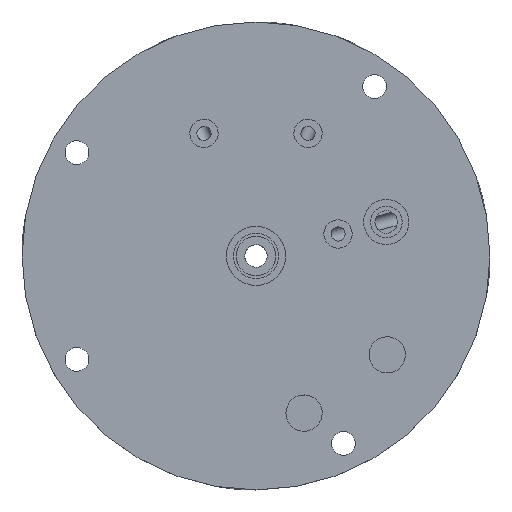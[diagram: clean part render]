
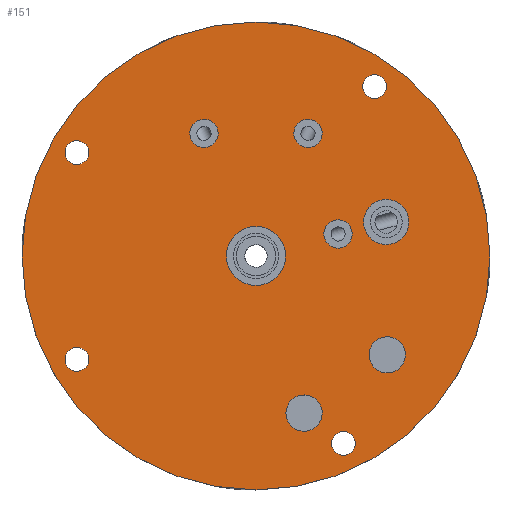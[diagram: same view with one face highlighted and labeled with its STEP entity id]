
A CAD part, top view. The second image highlights one B-rep face of the part: STEP entity #151.
In plain terms, the highlighted planar face has unit normal (0, 0, 1).
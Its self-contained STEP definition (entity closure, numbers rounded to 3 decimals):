
#151=ADVANCED_FACE('',(#434,#435,#436,#437,#438,#439,#440,#441,#442,#443,#444,#445),#446,.T.);
#434=FACE_BOUND('',#839,.T.);
#435=FACE_BOUND('',#840,.T.);
#436=FACE_BOUND('',#841,.T.);
#437=FACE_BOUND('',#842,.T.);
#438=FACE_BOUND('',#843,.T.);
#439=FACE_BOUND('',#844,.T.);
#440=FACE_BOUND('',#845,.T.);
#441=FACE_BOUND('',#846,.T.);
#442=FACE_BOUND('',#847,.T.);
#443=FACE_BOUND('',#848,.T.);
#444=FACE_BOUND('',#849,.T.);
#445=FACE_OUTER_BOUND('',#850,.T.);
#446=PLANE('',#851);
#839=EDGE_LOOP('',(#1576));
#840=EDGE_LOOP('',(#1577));
#841=EDGE_LOOP('',(#1578));
#842=EDGE_LOOP('',(#1579));
#843=EDGE_LOOP('',(#1580));
#844=EDGE_LOOP('',(#1581));
#845=EDGE_LOOP('',(#1582));
#846=EDGE_LOOP('',(#1583));
#847=EDGE_LOOP('',(#1584));
#848=EDGE_LOOP('',(#1585));
#849=EDGE_LOOP('',(#1586));
#850=EDGE_LOOP('',(#1587));
#851=AXIS2_PLACEMENT_3D('',#1588,#1589,#1590);
#1576=ORIENTED_EDGE('',*,*,#2219,.T.);
#1577=ORIENTED_EDGE('',*,*,#2220,.T.);
#1578=ORIENTED_EDGE('',*,*,#2221,.F.);
#1579=ORIENTED_EDGE('',*,*,#2222,.T.);
#1580=ORIENTED_EDGE('',*,*,#2223,.F.);
#1581=ORIENTED_EDGE('',*,*,#2224,.F.);
#1582=ORIENTED_EDGE('',*,*,#2225,.T.);
#1583=ORIENTED_EDGE('',*,*,#2226,.T.);
#1584=ORIENTED_EDGE('',*,*,#2227,.T.);
#1585=ORIENTED_EDGE('',*,*,#2228,.T.);
#1586=ORIENTED_EDGE('',*,*,#2218,.T.);
#1587=ORIENTED_EDGE('',*,*,#2043,.T.);
#1588=CARTESIAN_POINT('',(0.0,0.622,-106.));
#1589=DIRECTION('',(0.0,0.0,1.0));
#1590=DIRECTION('',(1.0,0.0,0.0));
#2043=EDGE_CURVE('',#2338,#2338,#2339,.T.);
#2218=EDGE_CURVE('',#2641,#2641,#2642,.T.);
#2219=EDGE_CURVE('',#2643,#2643,#2644,.T.);
#2220=EDGE_CURVE('',#2645,#2645,#2646,.T.);
#2221=EDGE_CURVE('',#2647,#2647,#2648,.T.);
#2222=EDGE_CURVE('',#2649,#2649,#2650,.T.);
#2223=EDGE_CURVE('',#2651,#2651,#2652,.T.);
#2224=EDGE_CURVE('',#2653,#2653,#2654,.T.);
#2225=EDGE_CURVE('',#2655,#2655,#2656,.T.);
#2226=EDGE_CURVE('',#2657,#2657,#2658,.T.);
#2227=EDGE_CURVE('',#2659,#2659,#2660,.T.);
#2228=EDGE_CURVE('',#2661,#2661,#2662,.T.);
#2338=VERTEX_POINT('',#3128);
#2339=CIRCLE('',#3129,41.3);
#2641=VERTEX_POINT('',#4051);
#2642=CIRCLE('',#4052,5.2);
#2643=VERTEX_POINT('',#4053);
#2644=CIRCLE('',#4054,3.2);
#2645=VERTEX_POINT('',#4055);
#2646=CIRCLE('',#4056,3.2);
#2647=VERTEX_POINT('',#4057);
#2648=CIRCLE('',#4058,2.5);
#2649=VERTEX_POINT('',#4059);
#2650=CIRCLE('',#4060,4.0);
#2651=VERTEX_POINT('',#4061);
#2652=CIRCLE('',#4062,2.5);
#2653=VERTEX_POINT('',#4063);
#2654=CIRCLE('',#4064,2.5);
#2655=VERTEX_POINT('',#4065);
#2656=CIRCLE('',#4066,2.1);
#2657=VERTEX_POINT('',#4067);
#2658=CIRCLE('',#4068,2.1);
#2659=VERTEX_POINT('',#4069);
#2660=CIRCLE('',#4070,2.1);
#2661=VERTEX_POINT('',#4071);
#2662=CIRCLE('',#4072,2.1);
#3128=CARTESIAN_POINT('',(41.3,0.622,-106.));
#3129=AXIS2_PLACEMENT_3D('',#4316,#4317,#4318);
#4051=CARTESIAN_POINT('',(5.2,0.622,-106.));
#4052=AXIS2_PLACEMENT_3D('',#4568,#4569,#4570);
#4053=CARTESIAN_POINT('',(5.419,-28.047,-106.));
#4054=AXIS2_PLACEMENT_3D('',#4571,#4572,#4573);
#4055=CARTESIAN_POINT('',(21.235,-19.386,-106.));
#4056=AXIS2_PLACEMENT_3D('',#4574,#4575,#4576);
#4057=CARTESIAN_POINT('',(12.074,3.857,-106.));
#4058=AXIS2_PLACEMENT_3D('',#4577,#4578,#4579);
#4059=CARTESIAN_POINT('',(27.0,6.622,-106.));
#4060=AXIS2_PLACEMENT_3D('',#4580,#4581,#4582);
#4061=CARTESIAN_POINT('',(-8.205,19.952,-106.));
#4062=AXIS2_PLACEMENT_3D('',#4583,#4584,#4585);
#4063=CARTESIAN_POINT('',(8.205,19.952,-106.));
#4064=AXIS2_PLACEMENT_3D('',#4586,#4587,#4588);
#4065=CARTESIAN_POINT('',(15.426,-30.358,-106.));
#4066=AXIS2_PLACEMENT_3D('',#4589,#4590,#4591);
#4067=CARTESIAN_POINT('',(20.936,32.621,-106.));
#4068=AXIS2_PLACEMENT_3D('',#4592,#4593,#4594);
#4069=CARTESIAN_POINT('',(-31.61,20.972,-106.));
#4070=AXIS2_PLACEMENT_3D('',#4595,#4596,#4597);
#4071=CARTESIAN_POINT('',(-31.61,-15.528,-106.));
#4072=AXIS2_PLACEMENT_3D('',#4598,#4599,#4600);
#4316=CARTESIAN_POINT('',(0.0,0.622,-106.));
#4317=DIRECTION('',(0.0,0.0,1.0));
#4318=DIRECTION('',(1.0,0.0,0.0));
#4568=CARTESIAN_POINT('',(0.0,0.622,-106.));
#4569=DIRECTION('',(0.0,0.0,-1.0));
#4570=DIRECTION('',(1.0,0.0,0.0));
#4571=CARTESIAN_POINT('',(8.479,-27.111,-106.));
#4572=DIRECTION('',(-0.0,0.0,-1.0));
#4573=DIRECTION('',(-0.956,-0.292,0.0));
#4574=CARTESIAN_POINT('',(23.16,-16.831,-106.));
#4575=DIRECTION('',(-0.0,0.0,-1.0));
#4576=DIRECTION('',(-0.602,-0.799,0.0));
#4577=CARTESIAN_POINT('',(14.489,4.504,-106.));
#4578=DIRECTION('',(0.,0.,1.0));
#4579=DIRECTION('',(-0.966,-0.259,0.));
#4580=CARTESIAN_POINT('',(23.0,6.622,-106.));
#4581=DIRECTION('',(0.0,0.0,-1.0));
#4582=DIRECTION('',(1.0,0.0,0.0));
#4583=CARTESIAN_POINT('',(-9.182,22.254,-106.));
#4584=DIRECTION('',(0.,0.,1.0));
#4585=DIRECTION('',(0.391,-0.921,0.));
#4586=CARTESIAN_POINT('',(9.182,22.254,-106.));
#4587=DIRECTION('',(0.,0.,1.0));
#4588=DIRECTION('',(-0.391,-0.921,0.));
#4589=CARTESIAN_POINT('',(15.426,-32.458,-106.));
#4590=DIRECTION('',(0.0,0.,-1.0));
#4591=DIRECTION('',(0.0,1.0,0.));
#4592=CARTESIAN_POINT('',(20.936,30.521,-106.));
#4593=DIRECTION('',(0.0,0.,-1.0));
#4594=DIRECTION('',(0.0,1.0,0.));
#4595=CARTESIAN_POINT('',(-31.61,18.872,-106.));
#4596=DIRECTION('',(0.0,0.,-1.0));
#4597=DIRECTION('',(0.0,1.0,0.));
#4598=CARTESIAN_POINT('',(-31.61,-17.628,-106.));
#4599=DIRECTION('',(0.0,0.,-1.0));
#4600=DIRECTION('',(0.0,1.0,0.));
